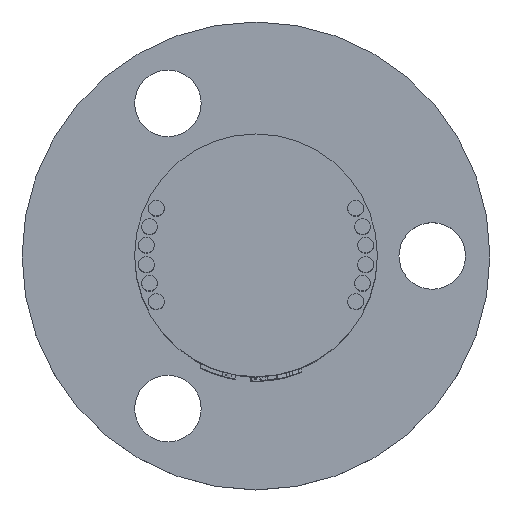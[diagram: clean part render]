
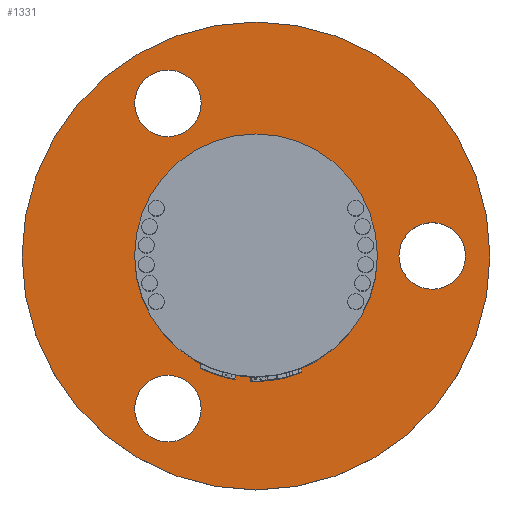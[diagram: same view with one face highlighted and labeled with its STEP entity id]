
A CAD part, top view. The second image highlights one B-rep face of the part: STEP entity #1331.
In plain terms, the highlighted planar face has unit normal (0, 0, 1).
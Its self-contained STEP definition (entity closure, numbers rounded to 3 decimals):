
#200=FACE_BOUND('',#3839,.T.);
#201=FACE_BOUND('',#3840,.T.);
#202=FACE_BOUND('',#3841,.T.);
#203=FACE_BOUND('',#3842,.T.);
#204=FACE_BOUND('',#3843,.T.);
#310=CIRCLE('',#13727,6.2);
#341=CIRCLE('',#13786,11.95);
#342=CIRCLE('',#13788,1.7);
#343=CIRCLE('',#13790,1.7);
#344=CIRCLE('',#13792,1.7);
#647=PLANE('',#13794);
#1331=ADVANCED_FACE('',(#200,#201,#202,#203,#204),#647,.T.);
#3839=EDGE_LOOP('',(#6712));
#3840=EDGE_LOOP('',(#6713));
#3841=EDGE_LOOP('',(#6714));
#3842=EDGE_LOOP('',(#6715));
#3843=EDGE_LOOP('',(#6716));
#6712=ORIENTED_EDGE('',*,*,#10887,.F.);
#6713=ORIENTED_EDGE('',*,*,#10921,.F.);
#6714=ORIENTED_EDGE('',*,*,#10920,.F.);
#6715=ORIENTED_EDGE('',*,*,#10919,.F.);
#6716=ORIENTED_EDGE('',*,*,#10918,.F.);
#9041=VERTEX_POINT('',#26994);
#9072=VERTEX_POINT('',#27084);
#9073=VERTEX_POINT('',#27087);
#9074=VERTEX_POINT('',#27090);
#9075=VERTEX_POINT('',#27093);
#10887=EDGE_CURVE('',#9041,#9041,#310,.T.);
#10918=EDGE_CURVE('',#9072,#9072,#341,.T.);
#10919=EDGE_CURVE('',#9073,#9073,#342,.T.);
#10920=EDGE_CURVE('',#9074,#9074,#343,.T.);
#10921=EDGE_CURVE('',#9075,#9075,#344,.T.);
#13727=AXIS2_PLACEMENT_3D('',#26993,#14919,#14920);
#13786=AXIS2_PLACEMENT_3D('',#27083,#15037,#15038);
#13788=AXIS2_PLACEMENT_3D('',#27086,#15041,#15042);
#13790=AXIS2_PLACEMENT_3D('',#27089,#15045,#15046);
#13792=AXIS2_PLACEMENT_3D('',#27092,#15049,#15050);
#13794=AXIS2_PLACEMENT_3D('',#27095,#15053,#15054);
#14919=DIRECTION('',(0.,0.,1.));
#14920=DIRECTION('',(1.,0.,0.));
#15037=DIRECTION('',(0.,0.,-1.));
#15038=DIRECTION('',(1.,0.,0.));
#15041=DIRECTION('',(0.,0.,1.));
#15042=DIRECTION('',(1.,0.,0.));
#15045=DIRECTION('',(0.,0.,1.));
#15046=DIRECTION('',(1.,0.,0.));
#15049=DIRECTION('',(0.,0.,1.));
#15050=DIRECTION('',(1.,0.,0.));
#15053=DIRECTION('',(0.,0.,1.));
#15054=DIRECTION('',(1.,0.,0.));
#26993=CARTESIAN_POINT('',(0.,0.,5.5));
#26994=CARTESIAN_POINT('',(6.2,0.,5.5));
#27083=CARTESIAN_POINT('',(0.,0.,5.5));
#27084=CARTESIAN_POINT('',(11.95,0.,5.5));
#27086=CARTESIAN_POINT('',(-4.5,-7.794,5.5));
#27087=CARTESIAN_POINT('',(-2.8,-7.794,5.5));
#27089=CARTESIAN_POINT('',(-4.5,7.794,5.5));
#27090=CARTESIAN_POINT('',(-2.8,7.794,5.5));
#27092=CARTESIAN_POINT('',(9.,0.,5.5));
#27093=CARTESIAN_POINT('',(10.7,0.,5.5));
#27095=CARTESIAN_POINT('',(0.,0.,5.5));
